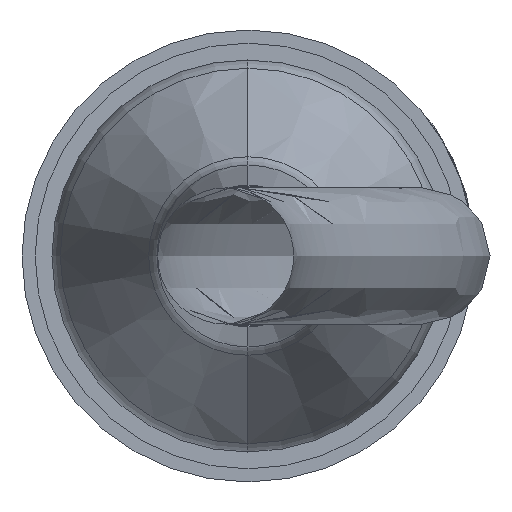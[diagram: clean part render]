
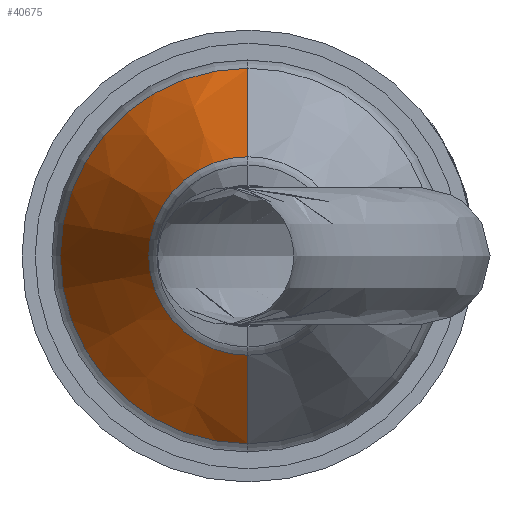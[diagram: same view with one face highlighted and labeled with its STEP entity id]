
A CAD part, left-side view. The second image highlights one B-rep face of the part: STEP entity #40675.
In plain terms, the highlighted conical face has half-angle 24.702 degrees and reference radius 21.6 mm.
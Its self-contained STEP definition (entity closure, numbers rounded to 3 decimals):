
#2842 = CARTESIAN_POINT ( 'NONE',  ( -349.73, 0., 0. ) ) ;
#2888 = DIRECTION ( 'NONE',  ( 0.908, 0., 0.418 ) ) ;
#2889 = VECTOR ( 'NONE', #2888, 1000. ) ;
#2890 = CARTESIAN_POINT ( 'NONE',  ( -347.741, 0., 21.6 ) ) ;
#2891 = LINE ( 'NONE', #2890, #2889 ) ;
#2892 = CARTESIAN_POINT ( 'NONE',  ( -370.921, 0., 10.937 ) ) ;
#2893 = CARTESIAN_POINT ( 'NONE',  ( -370.921, 0., -10.937 ) ) ;
#2895 = DIRECTION ( 'NONE',  ( 0., 0., -1. ) ) ;
#2897 = DIRECTION ( 'NONE',  ( 1., 0., 0. ) ) ;
#2898 = CARTESIAN_POINT ( 'NONE',  ( -370.921, 0., 0. ) ) ;
#2900 = AXIS2_PLACEMENT_3D ( 'NONE', #2898, #2897, #2895 ) ;
#2905 = DIRECTION ( 'NONE',  ( 0., 0., -1. ) ) ;
#2907 = DIRECTION ( 'NONE',  ( 1., 0., 0. ) ) ;
#2908 = CARTESIAN_POINT ( 'NONE',  ( -347.741, 0., 0. ) ) ;
#2909 = AXIS2_PLACEMENT_3D ( 'NONE', #2908, #2907, #2905 ) ;
#2911 = CIRCLE ( 'NONE', #2900, 10.937 ) ;
#2915 = CONICAL_SURFACE ( 'NONE', #2909, 21.6, 0.431 ) ;
#2917 = FACE_OUTER_BOUND ( 'NONE', #40676, .T. ) ;
#2932 = CARTESIAN_POINT ( 'NONE',  ( -349.73, 0., 20.685 ) ) ;
#2934 = DIRECTION ( 'NONE',  ( 0., 0., 1. ) ) ;
#2935 = DIRECTION ( 'NONE',  ( -1., 0., 0. ) ) ;
#2937 = AXIS2_PLACEMENT_3D ( 'NONE', #2842, #2935, #2934 ) ;
#2938 = CIRCLE ( 'NONE', #2937, 20.685 ) ;
#2957 = CARTESIAN_POINT ( 'NONE',  ( -349.73, 0., -20.685 ) ) ;
#3149 = DIRECTION ( 'NONE',  ( 0.908, 0., -0.418 ) ) ;
#3150 = VECTOR ( 'NONE', #3149, 1000. ) ;
#3151 = CARTESIAN_POINT ( 'NONE',  ( -347.741, 0., -21.6 ) ) ;
#3153 = LINE ( 'NONE', #3151, #3150 ) ;
#40671 = EDGE_CURVE ( 'NONE', #40672, #40697, #2938, .T. ) ;
#40672 = VERTEX_POINT ( 'NONE', #2932 ) ;
#40675 = ADVANCED_FACE ( 'NONE', ( #2917 ), #2915, .T. ) ;
#40676 = EDGE_LOOP ( 'NONE', ( #40677, #40681, #40683, #40740 ) ) ;
#40677 = ORIENTED_EDGE ( 'NONE', *, *, #40678, .T. ) ;
#40678 = EDGE_CURVE ( 'NONE', #40679, #40680, #2911, .T. ) ;
#40679 = VERTEX_POINT ( 'NONE', #2893 ) ;
#40680 = VERTEX_POINT ( 'NONE', #2892 ) ;
#40681 = ORIENTED_EDGE ( 'NONE', *, *, #40682, .T. ) ;
#40682 = EDGE_CURVE ( 'NONE', #40680, #40672, #2891, .T. ) ;
#40683 = ORIENTED_EDGE ( 'NONE', *, *, #40671, .T. ) ;
#40697 = VERTEX_POINT ( 'NONE', #2957 ) ;
#40740 = ORIENTED_EDGE ( 'NONE', *, *, #40741, .F. ) ;
#40741 = EDGE_CURVE ( 'NONE', #40679, #40697, #3153, .T. ) ;
